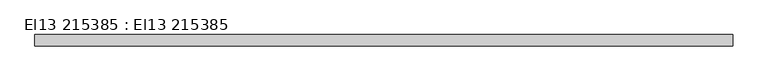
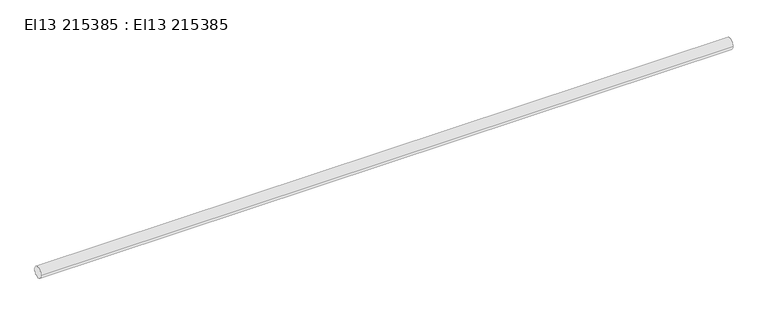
"""IFC4 building model written with IfcOpenShell, lengths in millimetres: cable carrier segment geometry, El13 215385 : El13 215385."""

from ifc_helpers import new_model, si_unit, point, frame, frame_2d, origin, place, context, project, spatial, circle_curve, trimmed, segment, composite_curve, outline, extrude, source, transform, mapped, element, save


def el13_215385_el13_215385_e67aa145(model_context):
    return source(origin(), model_context, "Body", "SweptSolid", [
        extrude(outline(composite_curve([segment(trimmed(circle_curve(frame_2d((17022.1, 4200.0)), 9.5), [point((17012.6, 4200.0))], [point((17031.6, 4200.0))], False, "CARTESIAN"), True, "CONTINUOUS"), segment(trimmed(circle_curve(frame_2d((17022.1, 4200.0)), 9.5), [point((17031.6, 4200.0))], [point((17012.6, 4200.0))], False, "CARTESIAN"), True, "CONTINUOUS")], self_intersect=False)), frame((20905.0, 0.0, 0.0), z_axis=(1.0, 0.0, 0.0), x_axis=(0.0, 1.0, 0.0)), (0.0, 0.0, 1.0), 1180.0),
    ])


if __name__ == "__main__":
    model = new_model("IFC4")
    model_context = context("Model", 3, world=origin())
    ifc_project = project(units=[si_unit("LENGTHUNIT", "METRE", prefix="MILLI")], contexts=[model_context])
    site = spatial("IfcSite", under=ifc_project)
    building = spatial("IfcBuilding", under=site)
    placement = place(None, origin())
    el13_215385_el13_215385_shape = el13_215385_el13_215385_e67aa145(model_context)
    element("IfcCableCarrierSegment", 1, ObjectType="El13 215385 : El13 215385", at=placement, inside=building, context=model_context, shape_type="MappedRepresentation", body=[
        mapped(el13_215385_el13_215385_shape, transform((0.0, 0.0, 0.0), x_axis=(1.0, 0.0, 0.0), y_axis=(0.0, 1.0, 0.0), z_axis=(0.0, 0.0, 1.0))),
    ])
    save(model, "model.ifc")
